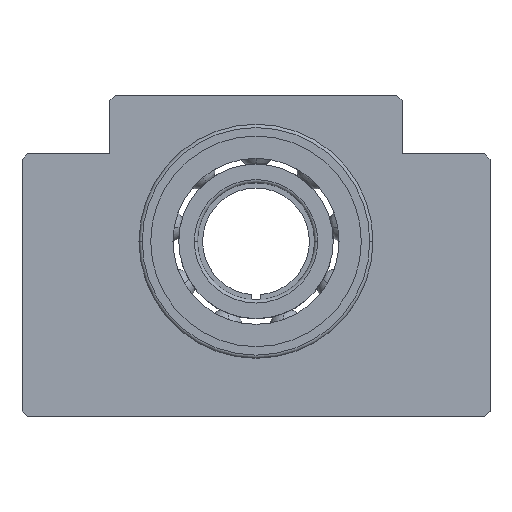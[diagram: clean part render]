
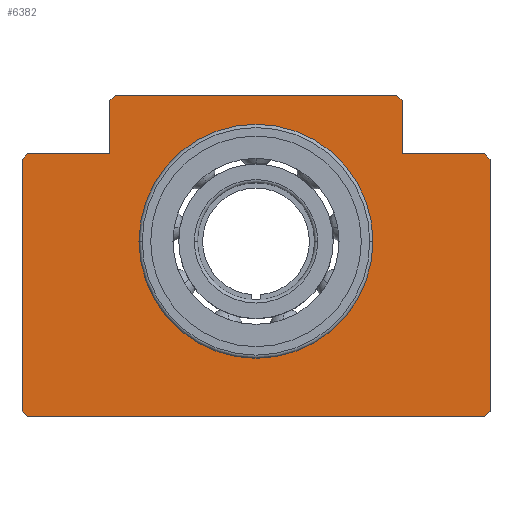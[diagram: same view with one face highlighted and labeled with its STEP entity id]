
A CAD part, top view. The second image highlights one B-rep face of the part: STEP entity #6382.
In plain terms, the highlighted planar face has unit normal (0, 0, 1).
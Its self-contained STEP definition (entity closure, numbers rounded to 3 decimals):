
#29 = LINE ( 'NONE', #7314, #11847 ) ;
#148 = CARTESIAN_POINT ( 'NONE',  ( -105.545, 60.717, 18.5 ) ) ;
#172 = ORIENTED_EDGE ( 'NONE', *, *, #12918, .T. ) ;
#224 = VERTEX_POINT ( 'NONE', #9699 ) ;
#339 = ORIENTED_EDGE ( 'NONE', *, *, #10051, .T. ) ;
#470 = DIRECTION ( 'NONE',  ( 0.707, -0.707, 0. ) ) ;
#647 = DIRECTION ( 'NONE',  ( 0., -1., 0. ) ) ;
#817 = VERTEX_POINT ( 'NONE', #14427 ) ;
#963 = EDGE_CURVE ( 'NONE', #21866, #9116, #29, .T. ) ;
#1140 = ORIENTED_EDGE ( 'NONE', *, *, #5653, .T. ) ;
#1150 = EDGE_CURVE ( 'NONE', #224, #9992, #2850, .T. ) ;
#1173 = VECTOR ( 'NONE', #647, 1000. ) ;
#1189 = ORIENTED_EDGE ( 'NONE', *, *, #9330, .T. ) ;
#1208 = CARTESIAN_POINT ( 'NONE',  ( 54.455, -25.283, 18.5 ) ) ;
#1335 = CARTESIAN_POINT ( 'NONE',  ( 52.455, 62.717, 18.5 ) ) ;
#1716 = FACE_BOUND ( 'NONE', #14724, .T. ) ;
#1794 = VERTEX_POINT ( 'NONE', #19488 ) ;
#1827 = DIRECTION ( 'NONE',  ( -1., 0., 0. ) ) ;
#1838 = LINE ( 'NONE', #21977, #19263 ) ;
#1911 = DIRECTION ( 'NONE',  ( 0., 0., -1. ) ) ;
#1945 = CARTESIAN_POINT ( 'NONE',  ( -103.545, -27.283, 18.5 ) ) ;
#2097 = ORIENTED_EDGE ( 'NONE', *, *, #7042, .T. ) ;
#2102 = VERTEX_POINT ( 'NONE', #16672 ) ;
#2170 = CARTESIAN_POINT ( 'NONE',  ( -65.545, 32.717, 18.5 ) ) ;
#2402 = VECTOR ( 'NONE', #22068, 1000. ) ;
#2408 = AXIS2_PLACEMENT_3D ( 'NONE', #11649, #7805, #15156 ) ;
#2431 = CARTESIAN_POINT ( 'NONE',  ( -105.545, -25.283, 18.5 ) ) ;
#2738 = VERTEX_POINT ( 'NONE', #6147 ) ;
#2850 = LINE ( 'NONE', #6677, #4915 ) ;
#2876 = CARTESIAN_POINT ( 'NONE',  ( -105.545, 60.717, 18.5 ) ) ;
#3247 = CARTESIAN_POINT ( 'NONE',  ( 22.455, 82.717, 18.5 ) ) ;
#4320 = VECTOR ( 'NONE', #1827, 1000. ) ;
#4915 = VECTOR ( 'NONE', #6917, 1000. ) ;
#5180 = DIRECTION ( 'NONE',  ( 0., 0., -1. ) ) ;
#5414 = CARTESIAN_POINT ( 'NONE',  ( -75.545, 62.717, 18.5 ) ) ;
#5541 = CARTESIAN_POINT ( 'NONE',  ( -75.545, 82.717, 18.5 ) ) ;
#5653 = EDGE_CURVE ( 'NONE', #817, #1794, #12952, .T. ) ;
#6147 = CARTESIAN_POINT ( 'NONE',  ( 54.455, 60.717, 18.5 ) ) ;
#6247 = DIRECTION ( 'NONE',  ( 1., 0., 0. ) ) ;
#6304 = CARTESIAN_POINT ( 'NONE',  ( 24.455, 80.717, 18.5 ) ) ;
#6382 = ADVANCED_FACE ( 'NONE', ( #1716, #11281 ), #11525, .F. ) ;
#6544 = CARTESIAN_POINT ( 'NONE',  ( -103.545, -27.283, 18.5 ) ) ;
#6669 = VERTEX_POINT ( 'NONE', #13668 ) ;
#6677 = CARTESIAN_POINT ( 'NONE',  ( -75.545, 80.717, 18.5 ) ) ;
#6853 = ORIENTED_EDGE ( 'NONE', *, *, #1150, .T. ) ;
#6917 = DIRECTION ( 'NONE',  ( -0.707, -0.707, 0. ) ) ;
#6970 = DIRECTION ( 'NONE',  ( -1., 0., 0. ) ) ;
#7042 = EDGE_CURVE ( 'NONE', #12642, #6669, #22090, .T. ) ;
#7128 = EDGE_CURVE ( 'NONE', #22833, #2102, #8335, .T. ) ;
#7224 = VECTOR ( 'NONE', #16267, 1000. ) ;
#7314 = CARTESIAN_POINT ( 'NONE',  ( 22.455, 82.717, 18.5 ) ) ;
#7330 = CARTESIAN_POINT ( 'NONE',  ( 52.455, -27.283, 18.5 ) ) ;
#7452 = CARTESIAN_POINT ( 'NONE',  ( -25.545, 32.717, 18.5 ) ) ;
#7688 = VECTOR ( 'NONE', #18425, 1000. ) ;
#7749 = ORIENTED_EDGE ( 'NONE', *, *, #23551, .T. ) ;
#7805 = DIRECTION ( 'NONE',  ( 0., 0., -1. ) ) ;
#7858 = LINE ( 'NONE', #15442, #8574 ) ;
#7995 = VERTEX_POINT ( 'NONE', #1208 ) ;
#8335 = LINE ( 'NONE', #2431, #17445 ) ;
#8574 = VECTOR ( 'NONE', #18970, 1000. ) ;
#9039 = LINE ( 'NONE', #7330, #2402 ) ;
#9116 = VERTEX_POINT ( 'NONE', #3247 ) ;
#9330 = EDGE_CURVE ( 'NONE', #17068, #18205, #23262, .T. ) ;
#9627 = CARTESIAN_POINT ( 'NONE',  ( -75.545, 62.717, 18.5 ) ) ;
#9699 = CARTESIAN_POINT ( 'NONE',  ( -73.545, 82.717, 18.5 ) ) ;
#9731 = VECTOR ( 'NONE', #6247, 1000. ) ;
#9992 = VERTEX_POINT ( 'NONE', #18648 ) ;
#10051 = EDGE_CURVE ( 'NONE', #2102, #12642, #13786, .T. ) ;
#10071 = VECTOR ( 'NONE', #20559, 1000. ) ;
#11072 = VECTOR ( 'NONE', #13672, 1000. ) ;
#11281 = FACE_OUTER_BOUND ( 'NONE', #19073, .T. ) ;
#11375 = CARTESIAN_POINT ( 'NONE',  ( 24.455, 62.717, 18.5 ) ) ;
#11525 = PLANE ( 'NONE',  #2408 ) ;
#11649 = CARTESIAN_POINT ( 'NONE',  ( -75.545, 82.717, 18.5 ) ) ;
#11847 = VECTOR ( 'NONE', #22046, 1000. ) ;
#11854 = CARTESIAN_POINT ( 'NONE',  ( 14.455, 32.717, 18.5 ) ) ;
#12108 = EDGE_CURVE ( 'NONE', #12166, #12554, #16630, .T. ) ;
#12165 = CARTESIAN_POINT ( 'NONE',  ( -25.545, 32.717, 18.5 ) ) ;
#12166 = VERTEX_POINT ( 'NONE', #1335 ) ;
#12424 = LINE ( 'NONE', #5541, #4320 ) ;
#12519 = EDGE_CURVE ( 'NONE', #12554, #21866, #17075, .T. ) ;
#12554 = VERTEX_POINT ( 'NONE', #11375 ) ;
#12642 = VERTEX_POINT ( 'NONE', #6544 ) ;
#12664 = CARTESIAN_POINT ( 'NONE',  ( 24.455, 80.717, 18.5 ) ) ;
#12918 = EDGE_CURVE ( 'NONE', #18205, #17068, #21532, .T. ) ;
#12952 = LINE ( 'NONE', #13185, #10071 ) ;
#13185 = CARTESIAN_POINT ( 'NONE',  ( -75.545, 62.717, 18.5 ) ) ;
#13615 = LINE ( 'NONE', #9627, #1173 ) ;
#13668 = CARTESIAN_POINT ( 'NONE',  ( 52.455, -27.283, 18.5 ) ) ;
#13672 = DIRECTION ( 'NONE',  ( 0., 1., 0. ) ) ;
#13786 = LINE ( 'NONE', #22734, #21371 ) ;
#14067 = EDGE_CURVE ( 'NONE', #9992, #817, #13615, .T. ) ;
#14169 = EDGE_CURVE ( 'NONE', #1794, #22833, #22276, .T. ) ;
#14427 = CARTESIAN_POINT ( 'NONE',  ( -75.545, 62.717, 18.5 ) ) ;
#14724 = EDGE_LOOP ( 'NONE', ( #1189, #172 ) ) ;
#14978 = ORIENTED_EDGE ( 'NONE', *, *, #23198, .T. ) ;
#15156 = DIRECTION ( 'NONE',  ( 0., -1., 0. ) ) ;
#15234 = ORIENTED_EDGE ( 'NONE', *, *, #14169, .T. ) ;
#15442 = CARTESIAN_POINT ( 'NONE',  ( 54.455, 60.717, 18.5 ) ) ;
#15959 = ORIENTED_EDGE ( 'NONE', *, *, #12108, .T. ) ;
#16267 = DIRECTION ( 'NONE',  ( -1., 0., 0. ) ) ;
#16616 = DIRECTION ( 'NONE',  ( -1., 0., 0. ) ) ;
#16630 = LINE ( 'NONE', #5414, #7224 ) ;
#16672 = CARTESIAN_POINT ( 'NONE',  ( -105.545, -25.283, 18.5 ) ) ;
#17068 = VERTEX_POINT ( 'NONE', #2170 ) ;
#17075 = LINE ( 'NONE', #6304, #11072 ) ;
#17445 = VECTOR ( 'NONE', #21106, 1000. ) ;
#18205 = VERTEX_POINT ( 'NONE', #11854 ) ;
#18425 = DIRECTION ( 'NONE',  ( -0.707, -0.707, 0. ) ) ;
#18648 = CARTESIAN_POINT ( 'NONE',  ( -75.545, 80.717, 18.5 ) ) ;
#18970 = DIRECTION ( 'NONE',  ( 0., 1., 0. ) ) ;
#19073 = EDGE_LOOP ( 'NONE', ( #15234, #21779, #339, #2097, #23451, #14978, #22074, #15959, #19996, #23030, #7749, #6853, #21167, #1140 ) ) ;
#19263 = VECTOR ( 'NONE', #23797, 1000. ) ;
#19488 = CARTESIAN_POINT ( 'NONE',  ( -103.545, 62.717, 18.5 ) ) ;
#19805 = AXIS2_PLACEMENT_3D ( 'NONE', #7452, #1911, #16616 ) ;
#19976 = AXIS2_PLACEMENT_3D ( 'NONE', #12165, #5180, #6970 ) ;
#19996 = ORIENTED_EDGE ( 'NONE', *, *, #12519, .T. ) ;
#20559 = DIRECTION ( 'NONE',  ( -1., 0., 0. ) ) ;
#20636 = EDGE_CURVE ( 'NONE', #2738, #12166, #1838, .T. ) ;
#21106 = DIRECTION ( 'NONE',  ( 0., -1., 0. ) ) ;
#21167 = ORIENTED_EDGE ( 'NONE', *, *, #14067, .T. ) ;
#21371 = VECTOR ( 'NONE', #470, 1000. ) ;
#21532 = CIRCLE ( 'NONE', #19976, 40. ) ;
#21779 = ORIENTED_EDGE ( 'NONE', *, *, #7128, .T. ) ;
#21866 = VERTEX_POINT ( 'NONE', #12664 ) ;
#21977 = CARTESIAN_POINT ( 'NONE',  ( 52.455, 62.717, 18.5 ) ) ;
#22046 = DIRECTION ( 'NONE',  ( -0.707, 0.707, 0. ) ) ;
#22068 = DIRECTION ( 'NONE',  ( 0.707, 0.707, 0. ) ) ;
#22074 = ORIENTED_EDGE ( 'NONE', *, *, #20636, .T. ) ;
#22090 = LINE ( 'NONE', #1945, #9731 ) ;
#22276 = LINE ( 'NONE', #148, #7688 ) ;
#22602 = EDGE_CURVE ( 'NONE', #6669, #7995, #9039, .T. ) ;
#22734 = CARTESIAN_POINT ( 'NONE',  ( -103.545, -27.283, 18.5 ) ) ;
#22833 = VERTEX_POINT ( 'NONE', #2876 ) ;
#23030 = ORIENTED_EDGE ( 'NONE', *, *, #963, .T. ) ;
#23198 = EDGE_CURVE ( 'NONE', #7995, #2738, #7858, .T. ) ;
#23262 = CIRCLE ( 'NONE', #19805, 40. ) ;
#23451 = ORIENTED_EDGE ( 'NONE', *, *, #22602, .T. ) ;
#23551 = EDGE_CURVE ( 'NONE', #9116, #224, #12424, .T. ) ;
#23797 = DIRECTION ( 'NONE',  ( -0.707, 0.707, 0. ) ) ;
